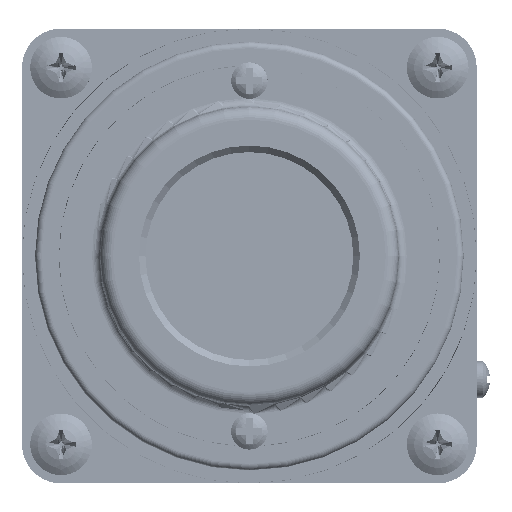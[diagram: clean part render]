
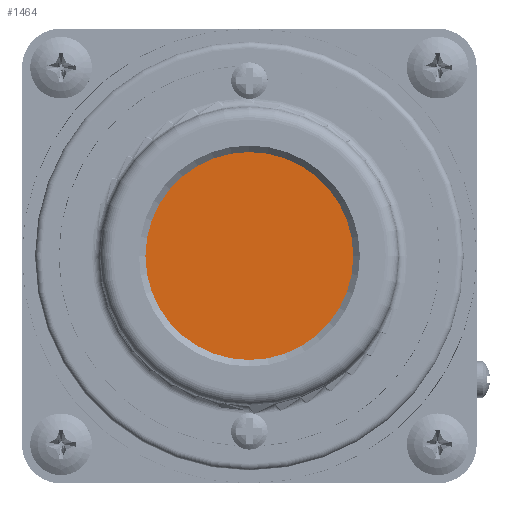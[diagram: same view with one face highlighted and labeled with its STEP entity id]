
A CAD part, left-side view. The second image highlights one B-rep face of the part: STEP entity #1464.
In plain terms, the highlighted planar face has unit normal (-1, 0, 0).
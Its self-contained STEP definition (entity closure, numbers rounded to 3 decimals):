
#943=FACE_OUTER_BOUND('',#2334,.T.);
#1170=PLANE('',#5833);
#1464=ADVANCED_FACE('',(#943),#1170,.T.);
#2334=EDGE_LOOP('',(#3179));
#3179=ORIENTED_EDGE('',*,*,#4920,.F.);
#4311=VERTEX_POINT('',#8628);
#4920=EDGE_CURVE('',#4311,#4311,#5459,.T.);
#5459=CIRCLE('',#5832,16.);
#5832=AXIS2_PLACEMENT_3D('',#8627,#6587,#6588);
#5833=AXIS2_PLACEMENT_3D('',#8629,#6589,#6590);
#6587=DIRECTION('',(1.,0.,0.));
#6588=DIRECTION('',(0.,0.,-1.));
#6589=DIRECTION('',(-1.,0.,0.));
#6590=DIRECTION('',(0.,0.,-1.));
#8627=CARTESIAN_POINT('',(-102.,0.,0.));
#8628=CARTESIAN_POINT('',(-102.,0.,-16.));
#8629=CARTESIAN_POINT('',(-102.,0.,0.));
